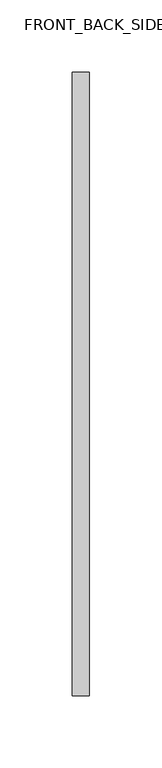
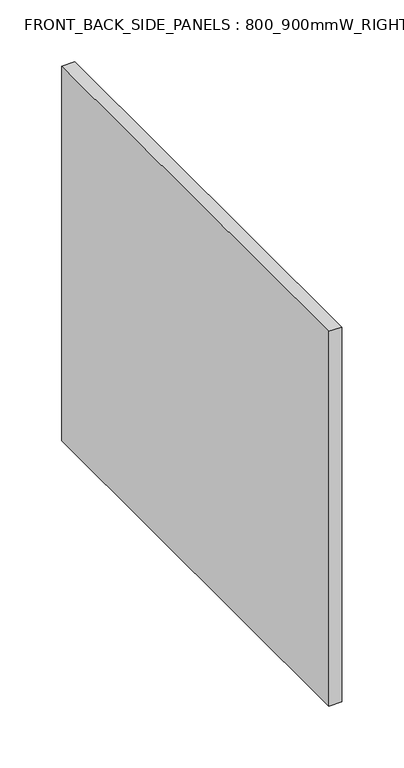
"""IFC4 building model written with IfcOpenShell, lengths in millimetres: furniture geometry, FRONT_BACK_SIDE_PANELS : 800_900mmW_RIGHT_SIDE_PANEL."""

from ifc_helpers import new_model, si_unit, frame, origin, place, context, project, spatial, polyline, outline, extrude, source, transform, mapped, element, save


def front_back_side_panels_800_900mmw_right_side_panel_6a73a54e(model_context):
    return source(origin(), model_context, "Body", "SweptSolid", [
        extrude(outline(polyline([(412.0, -214.7757931), (400.0, -214.7757931), (400.0, 217.1931665), (412.0, 217.1931665), (412.0, -214.7757931)])), frame((0.0, 0.0, 808.0), z_axis=(0.0, 0.0, 1.0), x_axis=(1.0, 0.0, 0.0)), (0.0, 0.0, 1.0), 370.0),
    ])


if __name__ == "__main__":
    model = new_model("IFC4")
    model_context = context("Model", 3, world=origin())
    ifc_project = project(units=[si_unit("LENGTHUNIT", "METRE", prefix="MILLI")], contexts=[model_context])
    site = spatial("IfcSite", under=ifc_project)
    building = spatial("IfcBuilding", under=site)
    placement = place(None, origin())
    front_back_side_panels_800_900mmw_right_side_panel_shape = front_back_side_panels_800_900mmw_right_side_panel_6a73a54e(model_context)
    element("IfcFurniture", 1, ObjectType="FRONT_BACK_SIDE_PANELS : 800_900mmW_RIGHT_SIDE_PANEL", at=placement, inside=building, context=model_context, shape_type="MappedRepresentation", body=[
        mapped(front_back_side_panels_800_900mmw_right_side_panel_shape, transform((0.0, 0.0, 0.0), x_axis=(1.0, 0.0, 0.0), y_axis=(0.0, 1.0, 0.0), z_axis=(0.0, 0.0, 1.0))),
    ])
    save(model, "model.ifc")
